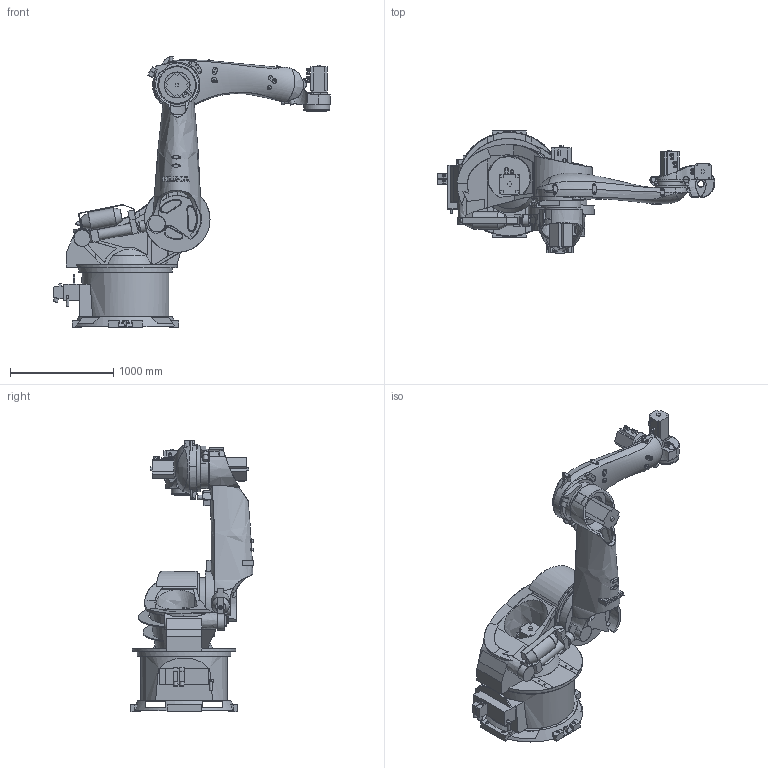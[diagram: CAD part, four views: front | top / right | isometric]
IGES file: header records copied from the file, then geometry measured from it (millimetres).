
Global section: file name: S:\cad\internet\3D_simple\KR300PA_KR470PA\KR300PA_KR400PA.igs; native system: NX V4.0; preprocessor: UGS NX IGES V4.0; date: 20090702.133124; units: millimetre
Bounding box: 2679.47 x 1183 x 2619.87 mm (x, y, z)
Surface area: 19039603.4 mm2 (no closed solid volume)
Topology: 0 solids, 0 shells, 1351 faces, 12017 edges, 11788 vertices
Faces by surface type: bspline 1351
